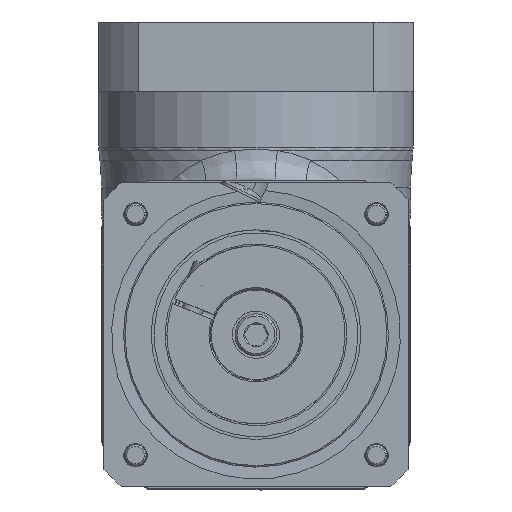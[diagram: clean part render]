
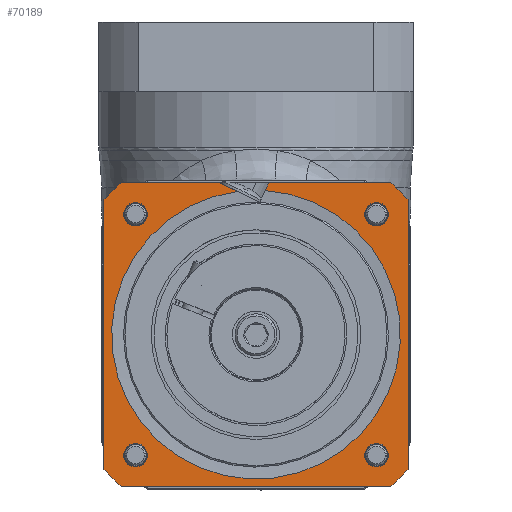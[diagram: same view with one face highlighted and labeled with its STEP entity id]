
A CAD part, top view. The second image highlights one B-rep face of the part: STEP entity #70189.
In plain terms, the highlighted planar face has unit normal (0, 0, 1).
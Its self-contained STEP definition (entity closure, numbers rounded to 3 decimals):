
#1515 = VERTEX_POINT ( 'NONE', #39630 ) ;
#1842 = CARTESIAN_POINT ( 'NONE',  ( -7.087, 54.636, 30. ) ) ;
#2715 = ORIENTED_EDGE ( 'NONE', *, *, #56771, .F. ) ;
#3672 = DIRECTION ( 'NONE',  ( -1., 0., 0. ) ) ;
#3676 = ORIENTED_EDGE ( 'NONE', *, *, #31491, .F. ) ;
#4197 = CARTESIAN_POINT ( 'NONE',  ( -10.37, 56.238, 30. ) ) ;
#4438 = CARTESIAN_POINT ( 'NONE',  ( 0., 77.5, 30. ) ) ;
#5075 = EDGE_CURVE ( 'NONE', #24221, #24221, #44141, .T. ) ;
#5122 = CARTESIAN_POINT ( 'NONE',  ( -41.462, -45.962, 30. ) ) ;
#5641 = FACE_BOUND ( 'NONE', #12863, .T. ) ;
#6126 = EDGE_CURVE ( 'NONE', #10420, #10420, #37708, .T. ) ;
#6217 = VERTEX_POINT ( 'NONE', #37190 ) ;
#6464 = LINE ( 'NONE', #10961, #41308 ) ;
#6777 = CARTESIAN_POINT ( 'NONE',  ( 51.403, -58., 30. ) ) ;
#6975 = DIRECTION ( 'NONE',  ( -1., 0., 0. ) ) ;
#8669 = DIRECTION ( 'NONE',  ( -0.899, 0.438, 0. ) ) ;
#9282 = CARTESIAN_POINT ( 'NONE',  ( 0., 0., 30. ) ) ;
#9585 = DIRECTION ( 'NONE',  ( 1., 0., 0. ) ) ;
#9683 = DIRECTION ( 'NONE',  ( -1., 0., 0. ) ) ;
#9947 = DIRECTION ( 'NONE',  ( -1., 0., 0. ) ) ;
#10420 = VERTEX_POINT ( 'NONE', #5122 ) ;
#10961 = CARTESIAN_POINT ( 'NONE',  ( -58., -77.5, 30. ) ) ;
#11282 = ORIENTED_EDGE ( 'NONE', *, *, #12274, .T. ) ;
#11368 = CARTESIAN_POINT ( 'NONE',  ( 77.5, -58., 30. ) ) ;
#12274 = EDGE_CURVE ( 'NONE', #69339, #32908, #16007, .T. ) ;
#12372 = EDGE_CURVE ( 'NONE', #57510, #18521, #51198, .T. ) ;
#12640 = DIRECTION ( 'NONE',  ( 0., 0., -1. ) ) ;
#12667 = LINE ( 'NONE', #74791, #17869 ) ;
#12681 = ORIENTED_EDGE ( 'NONE', *, *, #33604, .F. ) ;
#12863 = EDGE_LOOP ( 'NONE', ( #57881 ) ) ;
#12876 = VERTEX_POINT ( 'NONE', #58081 ) ;
#13867 = DIRECTION ( 'NONE',  ( 0., -1., 0. ) ) ;
#14586 = DIRECTION ( 'NONE',  ( 0., 0., 1. ) ) ;
#15057 = DIRECTION ( 'NONE',  ( 1., 0., 0. ) ) ;
#15324 = ORIENTED_EDGE ( 'NONE', *, *, #57227, .F. ) ;
#15498 = EDGE_CURVE ( 'NONE', #76888, #69141, #12667, .T. ) ;
#15682 = VERTEX_POINT ( 'NONE', #30553 ) ;
#16007 = LINE ( 'NONE', #4197, #69559 ) ;
#16468 = DIRECTION ( 'NONE',  ( 0., 0., -1. ) ) ;
#17241 = CARTESIAN_POINT ( 'NONE',  ( -41.462, 45.962, 30. ) ) ;
#17869 = VECTOR ( 'NONE', #13867, 1000. ) ;
#18521 = VERTEX_POINT ( 'NONE', #78091 ) ;
#19634 = CARTESIAN_POINT ( 'NONE',  ( 58., 51.403, 30. ) ) ;
#19706 = CARTESIAN_POINT ( 'NONE',  ( -45.962, 45.962, 30. ) ) ;
#19839 = EDGE_CURVE ( 'NONE', #48293, #48293, #69809, .T. ) ;
#20681 = ORIENTED_EDGE ( 'NONE', *, *, #79555, .F. ) ;
#20765 = CARTESIAN_POINT ( 'NONE',  ( -77.5, 58., 30. ) ) ;
#21100 = CARTESIAN_POINT ( 'NONE',  ( 45.962, 45.962, 30. ) ) ;
#21294 = VECTOR ( 'NONE', #15057, 1000. ) ;
#21510 = ORIENTED_EDGE ( 'NONE', *, *, #5075, .F. ) ;
#23093 = EDGE_CURVE ( 'NONE', #6217, #6217, #51928, .T. ) ;
#23546 = FACE_BOUND ( 'NONE', #74293, .T. ) ;
#23721 = VECTOR ( 'NONE', #78790, 1000. ) ;
#24221 = VERTEX_POINT ( 'NONE', #49192 ) ;
#24767 = DIRECTION ( 'NONE',  ( 1., 0., 0. ) ) ;
#24998 = CIRCLE ( 'NONE', #58924, 77.5 ) ;
#25400 = VERTEX_POINT ( 'NONE', #51129 ) ;
#25758 = EDGE_CURVE ( 'NONE', #47457, #1515, #69405, .T. ) ;
#28079 = VECTOR ( 'NONE', #54956, 1000. ) ;
#28474 = DIRECTION ( 'NONE',  ( 0., 0., -1. ) ) ;
#28571 = ORIENTED_EDGE ( 'NONE', *, *, #6126, .F. ) ;
#28682 = EDGE_CURVE ( 'NONE', #18521, #32908, #60905, .T. ) ;
#28766 = DIRECTION ( 'NONE',  ( 0., 0., 1. ) ) ;
#29706 = ORIENTED_EDGE ( 'NONE', *, *, #53045, .T. ) ;
#29864 = CARTESIAN_POINT ( 'NONE',  ( -77.5, 58., 30. ) ) ;
#30553 = CARTESIAN_POINT ( 'NONE',  ( 3.457, 54.985, 30. ) ) ;
#31054 = AXIS2_PLACEMENT_3D ( 'NONE', #79526, #73827, #61546 ) ;
#31217 = LINE ( 'NONE', #67208, #28079 ) ;
#31491 = EDGE_CURVE ( 'NONE', #40124, #25400, #42398, .T. ) ;
#32597 = CARTESIAN_POINT ( 'NONE',  ( 58., -51.403, 30. ) ) ;
#32854 = ORIENTED_EDGE ( 'NONE', *, *, #12372, .F. ) ;
#32908 = VERTEX_POINT ( 'NONE', #71269 ) ;
#33604 = EDGE_CURVE ( 'NONE', #1515, #76888, #24998, .T. ) ;
#34193 = EDGE_LOOP ( 'NONE', ( #21510 ) ) ;
#35449 = CARTESIAN_POINT ( 'NONE',  ( 0., 0., 30. ) ) ;
#36813 = AXIS2_PLACEMENT_3D ( 'NONE', #42524, #42930, #74399 ) ;
#37190 = CARTESIAN_POINT ( 'NONE',  ( 50.462, 45.962, 30. ) ) ;
#37708 = CIRCLE ( 'NONE', #70353, 4.5 ) ;
#37796 = ORIENTED_EDGE ( 'NONE', *, *, #47901, .T. ) ;
#39334 = AXIS2_PLACEMENT_3D ( 'NONE', #50648, #12640, #6975 ) ;
#39630 = CARTESIAN_POINT ( 'NONE',  ( 51.403, 58., 30. ) ) ;
#40124 = VERTEX_POINT ( 'NONE', #6777 ) ;
#40597 = CARTESIAN_POINT ( 'NONE',  ( 0., 0., 30. ) ) ;
#41121 = AXIS2_PLACEMENT_3D ( 'NONE', #19706, #74885, #62216 ) ;
#41308 = VECTOR ( 'NONE', #67308, 1000. ) ;
#42398 = LINE ( 'NONE', #11368, #23721 ) ;
#42524 = CARTESIAN_POINT ( 'NONE',  ( 0., 0., 30. ) ) ;
#42610 = EDGE_LOOP ( 'NONE', ( #43207, #29706, #37796, #11282, #63223, #32854, #15324, #2715, #3676, #20681, #46127, #12681 ) ) ;
#42930 = DIRECTION ( 'NONE',  ( 0., 0., -1. ) ) ;
#43207 = ORIENTED_EDGE ( 'NONE', *, *, #25758, .F. ) ;
#44141 = CIRCLE ( 'NONE', #31054, 4.5 ) ;
#46127 = ORIENTED_EDGE ( 'NONE', *, *, #15498, .F. ) ;
#47457 = VERTEX_POINT ( 'NONE', #65997 ) ;
#47901 = EDGE_CURVE ( 'NONE', #15682, #69339, #53755, .T. ) ;
#48293 = VERTEX_POINT ( 'NONE', #17241 ) ;
#48519 = FACE_BOUND ( 'NONE', #34193, .T. ) ;
#49192 = CARTESIAN_POINT ( 'NONE',  ( 50.462, -45.962, 30. ) ) ;
#50349 = AXIS2_PLACEMENT_3D ( 'NONE', #40597, #16468, #9947 ) ;
#50648 = CARTESIAN_POINT ( 'NONE',  ( 0., 0., 30. ) ) ;
#51129 = CARTESIAN_POINT ( 'NONE',  ( -51.403, -58., 30. ) ) ;
#51198 = CIRCLE ( 'NONE', #36813, 77.5 ) ;
#51928 = CIRCLE ( 'NONE', #72829, 4.5 ) ;
#52993 = EDGE_LOOP ( 'NONE', ( #70181 ) ) ;
#53045 = EDGE_CURVE ( 'NONE', #47457, #15682, #31217, .T. ) ;
#53684 = CARTESIAN_POINT ( 'NONE',  ( -45.962, -45.962, 30. ) ) ;
#53755 = CIRCLE ( 'NONE', #39334, 55.094 ) ;
#54956 = DIRECTION ( 'NONE',  ( -0.438, -0.899, 0. ) ) ;
#55039 = PLANE ( 'NONE',  #69727 ) ;
#56771 = EDGE_CURVE ( 'NONE', #25400, #12876, #71274, .T. ) ;
#57227 = EDGE_CURVE ( 'NONE', #12876, #57510, #6464, .T. ) ;
#57510 = VERTEX_POINT ( 'NONE', #65230 ) ;
#57881 = ORIENTED_EDGE ( 'NONE', *, *, #23093, .F. ) ;
#58081 = CARTESIAN_POINT ( 'NONE',  ( -58., -51.403, 30. ) ) ;
#58924 = AXIS2_PLACEMENT_3D ( 'NONE', #35449, #77975, #3672 ) ;
#60362 = FACE_OUTER_BOUND ( 'NONE', #42610, .T. ) ;
#60753 = DIRECTION ( 'NONE',  ( 0., 0., 1. ) ) ;
#60905 = LINE ( 'NONE', #29864, #71814 ) ;
#61546 = DIRECTION ( 'NONE',  ( 1., 0., 0. ) ) ;
#62216 = DIRECTION ( 'NONE',  ( 1., 0., 0. ) ) ;
#62660 = AXIS2_PLACEMENT_3D ( 'NONE', #9282, #28474, #9683 ) ;
#63223 = ORIENTED_EDGE ( 'NONE', *, *, #28682, .F. ) ;
#65230 = CARTESIAN_POINT ( 'NONE',  ( -58., 51.403, 30. ) ) ;
#65997 = CARTESIAN_POINT ( 'NONE',  ( 4.928, 58., 30. ) ) ;
#66564 = CIRCLE ( 'NONE', #62660, 77.5 ) ;
#67208 = CARTESIAN_POINT ( 'NONE',  ( 11.664, 71.811, 30. ) ) ;
#67308 = DIRECTION ( 'NONE',  ( 0., 1., 0. ) ) ;
#69141 = VERTEX_POINT ( 'NONE', #32597 ) ;
#69339 = VERTEX_POINT ( 'NONE', #1842 ) ;
#69405 = LINE ( 'NONE', #20765, #21294 ) ;
#69559 = VECTOR ( 'NONE', #8669, 1000. ) ;
#69727 = AXIS2_PLACEMENT_3D ( 'NONE', #4438, #60753, #24767 ) ;
#69809 = CIRCLE ( 'NONE', #41121, 4.5 ) ;
#70181 = ORIENTED_EDGE ( 'NONE', *, *, #19839, .F. ) ;
#70189 = ADVANCED_FACE ( 'NONE', ( #5641, #48519, #23546, #74250, #60362 ), #55039, .T. ) ;
#70353 = AXIS2_PLACEMENT_3D ( 'NONE', #53684, #28766, #9585 ) ;
#71269 = CARTESIAN_POINT ( 'NONE',  ( -13.984, 58., 30. ) ) ;
#71274 = CIRCLE ( 'NONE', #50349, 77.5 ) ;
#71814 = VECTOR ( 'NONE', #80089, 1000. ) ;
#72829 = AXIS2_PLACEMENT_3D ( 'NONE', #21100, #14586, #76687 ) ;
#73827 = DIRECTION ( 'NONE',  ( 0., 0., 1. ) ) ;
#74250 = FACE_BOUND ( 'NONE', #52993, .T. ) ;
#74293 = EDGE_LOOP ( 'NONE', ( #28571 ) ) ;
#74399 = DIRECTION ( 'NONE',  ( -1., 0., 0. ) ) ;
#74791 = CARTESIAN_POINT ( 'NONE',  ( 58., 58., 30. ) ) ;
#74885 = DIRECTION ( 'NONE',  ( 0., 0., 1. ) ) ;
#76687 = DIRECTION ( 'NONE',  ( 1., 0., 0. ) ) ;
#76888 = VERTEX_POINT ( 'NONE', #19634 ) ;
#77975 = DIRECTION ( 'NONE',  ( 0., 0., -1. ) ) ;
#78091 = CARTESIAN_POINT ( 'NONE',  ( -51.403, 58., 30. ) ) ;
#78790 = DIRECTION ( 'NONE',  ( -1., 0., 0. ) ) ;
#79526 = CARTESIAN_POINT ( 'NONE',  ( 45.962, -45.962, 30. ) ) ;
#79555 = EDGE_CURVE ( 'NONE', #69141, #40124, #66564, .T. ) ;
#80089 = DIRECTION ( 'NONE',  ( 1., 0., 0. ) ) ;
